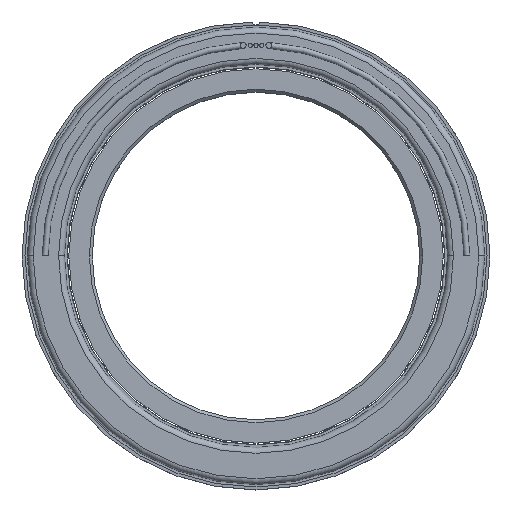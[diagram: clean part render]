
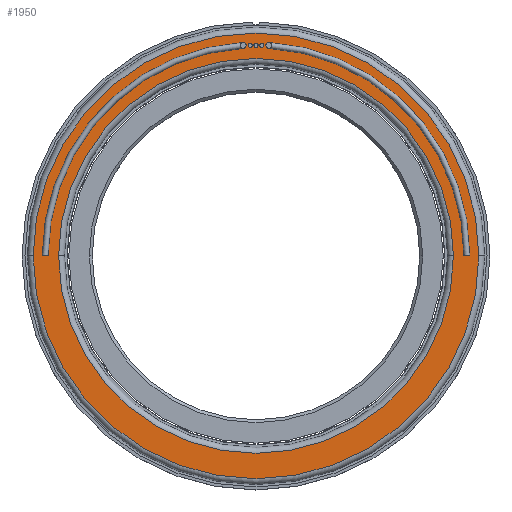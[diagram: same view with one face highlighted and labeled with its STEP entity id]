
A CAD part, top view. The second image highlights one B-rep face of the part: STEP entity #1950.
In plain terms, the highlighted planar face has unit normal (0, 0, 1).
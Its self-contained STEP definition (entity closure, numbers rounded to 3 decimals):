
#11 = AXIS2_PLACEMENT_3D ( 'NONE', #2184, #2882, #1702 ) ;
#123 = ORIENTED_EDGE ( 'NONE', *, *, #1240, .T. ) ;
#132 = CARTESIAN_POINT ( 'NONE',  ( 0., 0., 25.273 ) ) ;
#143 = CARTESIAN_POINT ( 'NONE',  ( 96.774, 0., 25.273 ) ) ;
#166 = EDGE_LOOP ( 'NONE', ( #1722, #2252 ) ) ;
#261 = DIRECTION ( 'NONE',  ( 1., 0., 0. ) ) ;
#362 = EDGE_CURVE ( 'NONE', #2674, #365, #2702, .T. ) ;
#365 = VERTEX_POINT ( 'NONE', #1543 ) ;
#447 = AXIS2_PLACEMENT_3D ( 'NONE', #2916, #978, #261 ) ;
#471 = FACE_OUTER_BOUND ( 'NONE', #1780, .T. ) ;
#488 = DIRECTION ( 'NONE',  ( 0., 0., 1. ) ) ;
#555 = VERTEX_POINT ( 'NONE', #1880 ) ;
#661 = CARTESIAN_POINT ( 'NONE',  ( 85.725, 0., 25.273 ) ) ;
#819 = CIRCLE ( 'NONE', #11, 85.725 ) ;
#849 = DIRECTION ( 'NONE',  ( 0., 0., 1. ) ) ;
#978 = DIRECTION ( 'NONE',  ( 0., 0., 1. ) ) ;
#1179 = EDGE_CURVE ( 'NONE', #365, #2674, #819, .T. ) ;
#1185 = DIRECTION ( 'NONE',  ( 1., 0., 0. ) ) ;
#1240 = EDGE_CURVE ( 'NONE', #555, #1682, #1948, .T. ) ;
#1325 = ORIENTED_EDGE ( 'NONE', *, *, #2863, .T. ) ;
#1388 = CIRCLE ( 'NONE', #2957, 96.774 ) ;
#1543 = CARTESIAN_POINT ( 'NONE',  ( -85.725, 0., 25.273 ) ) ;
#1682 = VERTEX_POINT ( 'NONE', #143 ) ;
#1691 = FACE_BOUND ( 'NONE', #166, .T. ) ;
#1702 = DIRECTION ( 'NONE',  ( 1., 0., 0. ) ) ;
#1722 = ORIENTED_EDGE ( 'NONE', *, *, #362, .T. ) ;
#1780 = EDGE_LOOP ( 'NONE', ( #1325, #123 ) ) ;
#1800 = CARTESIAN_POINT ( 'NONE',  ( 0., 0., 25.273 ) ) ;
#1880 = CARTESIAN_POINT ( 'NONE',  ( -96.774, 0., 25.273 ) ) ;
#1916 = CARTESIAN_POINT ( 'NONE',  ( 0., 0., 25.273 ) ) ;
#1948 = CIRCLE ( 'NONE', #447, 96.774 ) ;
#1950 = ADVANCED_FACE ( 'NONE', ( #1691, #471 ), #3001, .T. ) ;
#2052 = DIRECTION ( 'NONE',  ( 0., 0., -1. ) ) ;
#2184 = CARTESIAN_POINT ( 'NONE',  ( 0., 0., 25.273 ) ) ;
#2252 = ORIENTED_EDGE ( 'NONE', *, *, #1179, .T. ) ;
#2673 = AXIS2_PLACEMENT_3D ( 'NONE', #1800, #849, #2769 ) ;
#2674 = VERTEX_POINT ( 'NONE', #661 ) ;
#2702 = CIRCLE ( 'NONE', #3048, 85.725 ) ;
#2769 = DIRECTION ( 'NONE',  ( 1., 0., 0. ) ) ;
#2863 = EDGE_CURVE ( 'NONE', #1682, #555, #1388, .T. ) ;
#2882 = DIRECTION ( 'NONE',  ( 0., 0., -1. ) ) ;
#2916 = CARTESIAN_POINT ( 'NONE',  ( 0., 0., 25.273 ) ) ;
#2957 = AXIS2_PLACEMENT_3D ( 'NONE', #1916, #488, #1185 ) ;
#3001 = PLANE ( 'NONE',  #2673 ) ;
#3018 = DIRECTION ( 'NONE',  ( 1., 0., 0. ) ) ;
#3048 = AXIS2_PLACEMENT_3D ( 'NONE', #132, #2052, #3018 ) ;
